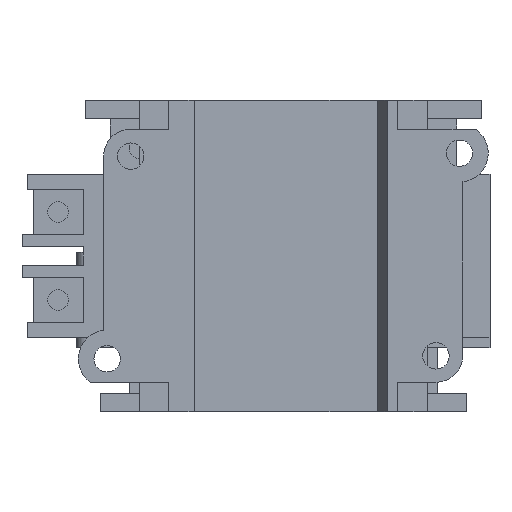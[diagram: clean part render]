
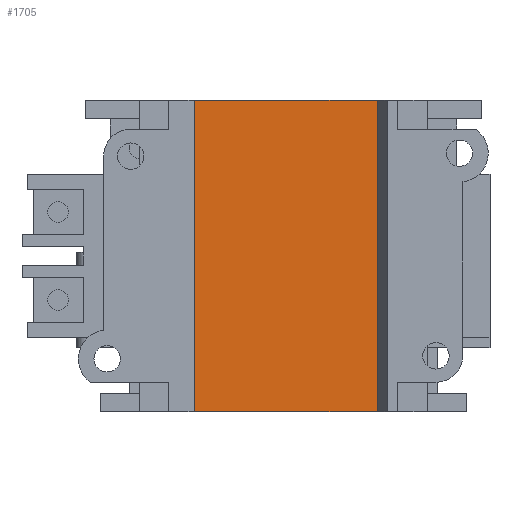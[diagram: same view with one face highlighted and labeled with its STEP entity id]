
A CAD part, left-side view. The second image highlights one B-rep face of the part: STEP entity #1705.
In plain terms, the highlighted planar face has unit normal (-1, 0, 0).
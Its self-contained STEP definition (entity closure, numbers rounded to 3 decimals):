
#1482 = EDGE_CURVE ( 'NONE', #3547, #3676, #11579, .T. ) ;
#1705 = ADVANCED_FACE ( 'NONE', ( #12121 ), #12120, .F. ) ;
#1720 = EDGE_CURVE ( 'NONE', #3543, #3677, #12192, .T. ) ;
#1722 = ORIENTED_EDGE ( 'NONE', *, *, #3665, .F. ) ;
#1740 = ORIENTED_EDGE ( 'NONE', *, *, #1482, .F. ) ;
#1766 = ORIENTED_EDGE ( 'NONE', *, *, #1720, .T. ) ;
#1807 = EDGE_LOOP ( 'NONE', ( #1766, #1722, #1740, #1809 ) ) ;
#1809 = ORIENTED_EDGE ( 'NONE', *, *, #3546, .F. ) ;
#3543 = VERTEX_POINT ( 'NONE', #6786 ) ;
#3546 = EDGE_CURVE ( 'NONE', #3543, #3547, #6781, .T. ) ;
#3547 = VERTEX_POINT ( 'NONE', #6840 ) ;
#3665 = EDGE_CURVE ( 'NONE', #3676, #3677, #7084, .T. ) ;
#3676 = VERTEX_POINT ( 'NONE', #7066 ) ;
#3677 = VERTEX_POINT ( 'NONE', #7065 ) ;
#6780 = CARTESIAN_POINT ( 'NONE',  ( -69.1, -16., -26.5 ) ) ;
#6781 = LINE ( 'NONE', #6780, #6842 ) ;
#6786 = CARTESIAN_POINT ( 'NONE',  ( -69.1, -17.7, -26.5 ) ) ;
#6840 = CARTESIAN_POINT ( 'NONE',  ( -69.1, 17.7, -26.5 ) ) ;
#6841 = DIRECTION ( 'NONE',  ( 0., 1., 0. ) ) ;
#6842 = VECTOR ( 'NONE', #6841, 1000. ) ;
#7065 = CARTESIAN_POINT ( 'NONE',  ( -69.1, -17.7, 26.5 ) ) ;
#7066 = CARTESIAN_POINT ( 'NONE',  ( -69.1, 17.7, 26.5 ) ) ;
#7081 = DIRECTION ( 'NONE',  ( 0., -1., 0. ) ) ;
#7082 = VECTOR ( 'NONE', #7081, 1000. ) ;
#7083 = CARTESIAN_POINT ( 'NONE',  ( -69.1, 0., 26.5 ) ) ;
#7084 = LINE ( 'NONE', #7083, #7082 ) ;
#11576 = DIRECTION ( 'NONE',  ( 0., 0., 1. ) ) ;
#11577 = VECTOR ( 'NONE', #11576, 1000. ) ;
#11578 = CARTESIAN_POINT ( 'NONE',  ( -69.1, 17.7, -26.5 ) ) ;
#11579 = LINE ( 'NONE', #11578, #11577 ) ;
#12116 = DIRECTION ( 'NONE',  ( 0., 0., -1. ) ) ;
#12117 = DIRECTION ( 'NONE',  ( 1., 0., 0. ) ) ;
#12118 = CARTESIAN_POINT ( 'NONE',  ( -69.1, 17.7, -26.5 ) ) ;
#12119 = AXIS2_PLACEMENT_3D ( 'NONE', #12118, #12117, #12116 ) ;
#12120 = PLANE ( 'NONE',  #12119 ) ;
#12121 = FACE_OUTER_BOUND ( 'NONE', #1807, .T. ) ;
#12189 = DIRECTION ( 'NONE',  ( 0., 0., 1. ) ) ;
#12190 = VECTOR ( 'NONE', #12189, 1000. ) ;
#12191 = CARTESIAN_POINT ( 'NONE',  ( -69.1, -17.7, -26.5 ) ) ;
#12192 = LINE ( 'NONE', #12191, #12190 ) ;
